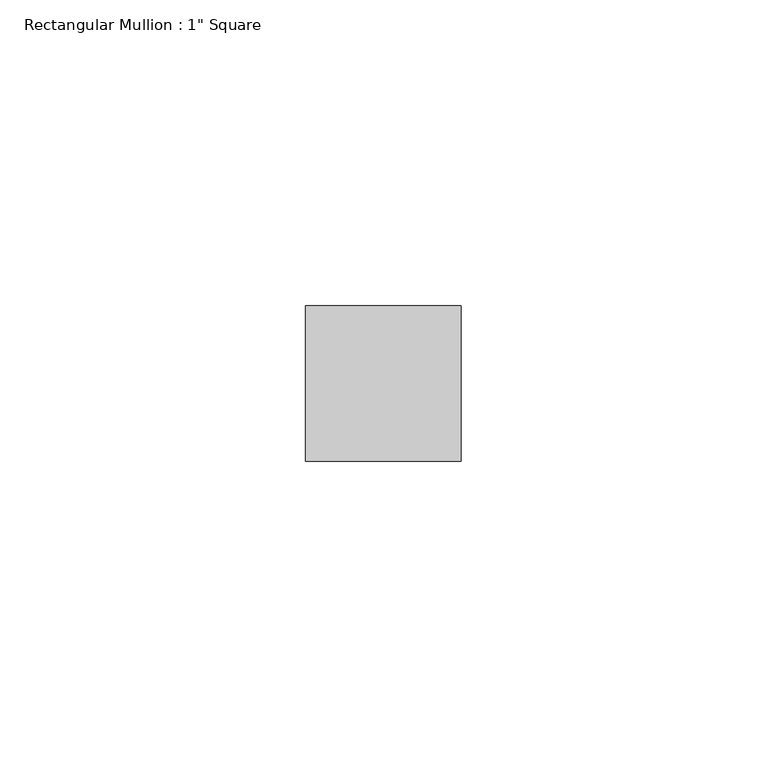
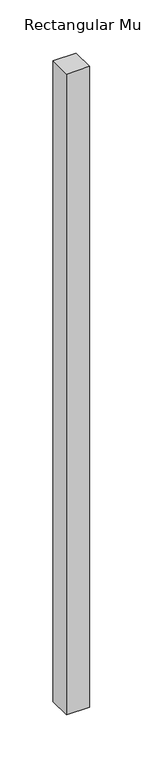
"""IFC4 building model written with IfcOpenShell, lengths in millimetres: member geometry."""

import ifcopenshell
import ifcopenshell.guid

model = None  # the IFC model being written
_history = None  # IfcOwnerHistory: only IFC2X3 demands one
_inside = {}  # id of a spatial element -> (the spatial element, [elements in it])
_under = {}  # id of a project, library or spatial element -> (it, [spatial elements below it])
_declared = {}  # id of a project -> (the project, [libraries it declares])
_typed = {}  # id of a type object -> (the type object, [elements of that type])
_made_of = {}  # id of a material, layer set ... -> (it, [elements and type objects made of it])


def new_model(schema):
    """Start an empty IFC model of exactly this schema.

    Asked for "IFC4X3", IfcOpenShell would pick the latest addendum, in which some entities
    have other attributes; the version numbers below select the first issue.
    IFC2X3 requires an IfcOwnerHistory on every rooted entity: one is made here for all.
    """
    global model, _history
    if schema == "IFC4X3":
        model = ifcopenshell.file(schema_version=(4, 3, 0, 0))
    else:
        model = ifcopenshell.file(schema=schema)
    _inside.clear()
    _under.clear()
    _declared.clear()
    _typed.clear()
    _made_of.clear()
    _history = None
    if model.schema == "IFC2X3":
        org = make("IfcOrganization", Name="unknown")
        user = make(
            "IfcPersonAndOrganization",
            ThePerson=make("IfcPerson", FamilyName="unknown"),
            TheOrganization=org,
        )
        app = make(
            "IfcApplication",
            ApplicationDeveloper=org,
            Version="unknown",
            ApplicationFullName="unknown",
            ApplicationIdentifier="unknown",
        )
        _history = make(
            "IfcOwnerHistory",
            OwningUser=user,
            OwningApplication=app,
            ChangeAction="ADDED",
            CreationDate=0,
        )
    return model


def make(cls, **values):
    """One entity of the class cls with the attributes given. An attribute that is None is left unset."""
    return model.create_entity(
        cls, **{name: value for name, value in values.items() if value is not None}
    )


def rooted(cls, **values):
    """An entity with a GlobalId (a new one), such as an element, a storey or a relation."""
    return make(cls, GlobalId=ifcopenshell.guid.new(), OwnerHistory=_history, **values)


def si_unit(unit_type, name, prefix=None):
    """IfcSIUnit, for example si_unit("LENGTHUNIT", "METRE", prefix="MILLI")."""
    return make("IfcSIUnit", UnitType=unit_type, Prefix=prefix, Name=name)


def assignment(units):
    """IfcUnitAssignment: the units of a project."""
    return None if units is None else make("IfcUnitAssignment", Units=units)


def point(xyz):
    """IfcCartesianPoint."""
    return None if xyz is None else make("IfcCartesianPoint", Coordinates=xyz)


def direction(xyz):
    """IfcDirection."""
    return None if xyz is None else make("IfcDirection", DirectionRatios=xyz)


def frame(location, z_axis=None, x_axis=None):
    """IfcAxis2Placement3D, a coordinate frame: its origin and axes. An axis left out is left unset."""
    return make(
        "IfcAxis2Placement3D",
        Location=point(location),
        Axis=direction(z_axis),
        RefDirection=direction(x_axis),
    )


def origin():
    """The frame at (0, 0, 0) with its axes left unset."""
    return frame((0.0, 0.0, 0.0))


def place(relative_to, where):
    """IfcLocalPlacement: puts the frame where relative to a parent placement (None: the world)."""
    return make(
        "IfcLocalPlacement", PlacementRelTo=relative_to, RelativePlacement=where
    )


def context(
    kind, dimensions, precision=None, world=None, true_north=None, identifier=None
):
    """IfcGeometricRepresentationContext, for example the 3D "Model" context."""
    return make(
        "IfcGeometricRepresentationContext",
        ContextIdentifier=identifier,
        ContextType=kind,
        CoordinateSpaceDimension=dimensions,
        Precision=precision,
        WorldCoordinateSystem=world,
        TrueNorth=true_north,
    )


def project(units=None, contexts=None):
    """IfcProject with its units and contexts."""
    return rooted(
        "IfcProject",
        Name="project",
        RepresentationContexts=contexts,
        UnitsInContext=assignment(units),
    )


def spatial(cls, under=None, at=None, **own):
    """A site, building, storey or space (cls), placed at a placement, below another one or the project."""
    s = rooted(cls, ObjectPlacement=at, **own)
    if under is not None:
        _under.setdefault(under.id(), (under, []))[1].append(s)
    return s


def polyline(points):
    """IfcPolyline through the points."""
    return make("IfcPolyline", Points=[point(p) for p in points])


def outline(outer, holes=None, kind="AREA"):
    """IfcArbitraryClosedProfileDef: a profile drawn as a closed curve; with holes, ...WithVoids."""
    if holes is None:
        return make("IfcArbitraryClosedProfileDef", ProfileType=kind, OuterCurve=outer)
    return make(
        "IfcArbitraryProfileDefWithVoids",
        ProfileType=kind,
        OuterCurve=outer,
        InnerCurves=holes,
    )


def extrude(swept, where, along, depth):
    """IfcExtrudedAreaSolid: the profile swept, set in the frame where, extruded along a direction by depth."""
    return make(
        "IfcExtrudedAreaSolid",
        SweptArea=swept,
        Position=where,
        ExtrudedDirection=direction(along),
        Depth=depth,
    )


def shape(context_of_items, identifier, shape_type, items):
    """IfcShapeRepresentation: the items that make up one representation, for example the "Body"."""
    return make(
        "IfcShapeRepresentation",
        ContextOfItems=context_of_items,
        RepresentationIdentifier=identifier,
        RepresentationType=shape_type,
        Items=items,
    )


def source(mapping_origin, context_of_items, identifier, shape_type, items):
    """IfcRepresentationMap: a shape defined once, which mapped items show again and again."""
    return make(
        "IfcRepresentationMap",
        MappingOrigin=mapping_origin,
        MappedRepresentation=shape(context_of_items, identifier, shape_type, items),
    )


def transform(
    local_origin,
    x_axis=None,
    y_axis=None,
    z_axis=None,
    scale=None,
    scale2=None,
    scale3=None,
    uniform=True,
):
    """IfcCartesianTransformationOperator3D, or its non-uniform kind. x_axis, y_axis, z_axis: its Axis1, 2, 3."""
    if uniform:
        return make(
            "IfcCartesianTransformationOperator3D",
            Axis1=direction(x_axis),
            Axis2=direction(y_axis),
            LocalOrigin=point(local_origin),
            Scale=scale,
            Axis3=direction(z_axis),
        )
    return make(
        "IfcCartesianTransformationOperator3DnonUniform",
        Axis1=direction(x_axis),
        Axis2=direction(y_axis),
        LocalOrigin=point(local_origin),
        Scale=scale,
        Axis3=direction(z_axis),
        Scale2=scale2,
        Scale3=scale3,
    )


def mapped(mapping_source, mapping_target):
    """IfcMappedItem: shows the shape of a source again, moved by a transform."""
    return make(
        "IfcMappedItem", MappingSource=mapping_source, MappingTarget=mapping_target
    )


def made_of(thing, what):
    """Note that an element or type object is made of a material, layer set ...; save() writes the relation."""
    if what is not None:
        _made_of.setdefault(what.id(), (what, []))[1].append(thing)
    return thing


def element(
    cls,
    number,
    at=None,
    inside=None,
    cuts=None,
    type_object=None,
    material=None,
    context=None,
    identifier="Body",
    shape_type=None,
    held_by="IfcProductDefinitionShape",
    body=None,
    shapes=None,
    **own,
):
    """One element of the class cls, such as IfcWall. Its Tag is "e" and its number.

    at: its placement. inside: the storey or other place that contains it. cuts: it is an
    opening in that element (IfcRelVoidsElement). A single representation is given by context,
    identifier, shape_type and body (its items); several are given by shapes. held_by: the class
    of the entity that holds the representations. save() writes the other relations.
    """
    e = rooted(cls, Tag="e%d" % number, ObjectPlacement=at, **own)
    if body is not None:
        shapes = [shape(context, identifier, shape_type, body)]
    if shapes is not None:
        e.Representation = make(held_by, Representations=shapes)
    if inside is not None:
        _inside.setdefault(inside.id(), (inside, []))[1].append(e)
    if cuts is not None:
        rooted(
            "IfcRelVoidsElement", RelatingBuildingElement=cuts, RelatedOpeningElement=e
        )
    if type_object is not None:
        _typed.setdefault(type_object.id(), (type_object, []))[1].append(e)
    return made_of(e, material)


def aggregate(whole, parts):
    """IfcRelAggregates: a whole, such as a stair, and the parts it consists of."""
    return rooted("IfcRelAggregates", RelatingObject=whole, RelatedObjects=parts)


def save(model, path):
    """Write the relations noted so far, then the file.

    IfcRelAggregates (storeys below a building ...), IfcRelContainedInSpatialStructure (elements
    in a storey), IfcRelDefinesByType, IfcRelAssociatesMaterial and IfcRelDeclares: one each for
    every whole, place, type object, material and project.
    """
    for whole, parts in _under.values():
        aggregate(whole, parts)
    for where, things in _inside.values():
        rooted(
            "IfcRelContainedInSpatialStructure",
            RelatedElements=things,
            RelatingStructure=where,
        )
    for kind, things in _typed.values():
        rooted("IfcRelDefinesByType", RelatedObjects=things, RelatingType=kind)
    for what, things in _made_of.values():
        rooted("IfcRelAssociatesMaterial", RelatedObjects=things, RelatingMaterial=what)
    for by, libraries in _declared.values():
        rooted("IfcRelDeclares", RelatingContext=by, RelatedDefinitions=libraries)
    model.write(path)


def member_136d72b7(model_context):
    return source(origin(), model_context, "Body", "SweptSolid", [
        extrude(outline(polyline([(12.7, -19.05), (12.7, -44.45), (-12.7, -44.45), (-12.7, -19.05), (12.7, -19.05)])), frame((0.0, 0.0, -736.5999998), z_axis=(0.0, 0.0, 1.0), x_axis=(1.0, 0.0, 0.0)), (0.0, 0.0, 1.0), 736.5999998),
    ])


if __name__ == "__main__":
    model = new_model("IFC4")
    model_context = context("Model", 3, world=origin())
    ifc_project = project(units=[si_unit("LENGTHUNIT", "METRE", prefix="MILLI")], contexts=[model_context])
    site = spatial("IfcSite", under=ifc_project)
    building = spatial("IfcBuilding", under=site)
    placement = place(None, origin())
    member_shape = member_136d72b7(model_context)
    element("IfcMember", 1, ObjectType="Rectangular Mullion : 1\" Square", at=placement, inside=building, context=model_context, shape_type="MappedRepresentation", body=[
        mapped(member_shape, transform((0.0, 0.0, 0.0), x_axis=(1.0, 0.0, 0.0), y_axis=(0.0, 1.0, 0.0), z_axis=(0.0, 0.0, 1.0))),
    ])
    save(model, "model.ifc")
